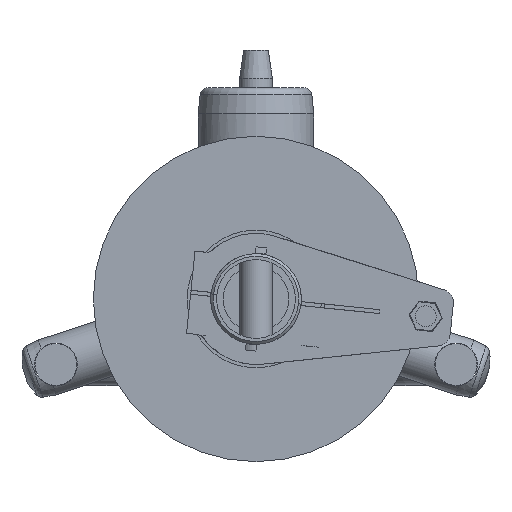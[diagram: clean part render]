
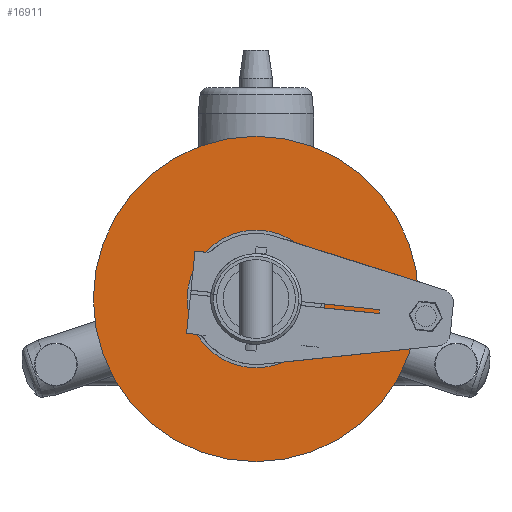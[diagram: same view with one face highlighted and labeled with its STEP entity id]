
A CAD part, front view. The second image highlights one B-rep face of the part: STEP entity #16911.
In plain terms, the highlighted planar face has unit normal (0, -1, 0).
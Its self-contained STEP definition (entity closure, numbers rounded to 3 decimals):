
#456 = DIRECTION ( 'NONE',  ( 0., -1., 0. ) ) ;
#630 = CARTESIAN_POINT ( 'NONE',  ( 0., 0., -52.5 ) ) ;
#1390 = EDGE_CURVE ( 'NONE', #16441, #19744, #5653, .T. ) ;
#1793 = ORIENTED_EDGE ( 'NONE', *, *, #1390, .T. ) ;
#2054 = CARTESIAN_POINT ( 'NONE',  ( 0., 0., 52.5 ) ) ;
#3431 = DIRECTION ( 'NONE',  ( 0., -1., 0. ) ) ;
#5345 = CARTESIAN_POINT ( 'NONE',  ( 0., 0., 0. ) ) ;
#5653 = CIRCLE ( 'NONE', #11081, 124. ) ;
#6054 = EDGE_LOOP ( 'NONE', ( #1793, #11224 ) ) ;
#6060 = CARTESIAN_POINT ( 'NONE',  ( 0., 0., 124. ) ) ;
#6659 = AXIS2_PLACEMENT_3D ( 'NONE', #5345, #17091, #7036 ) ;
#6713 = CARTESIAN_POINT ( 'NONE',  ( 0., 0., 0. ) ) ;
#7036 = DIRECTION ( 'NONE',  ( 0., 0., -1. ) ) ;
#7188 = FACE_BOUND ( 'NONE', #19404, .T. ) ;
#7352 = DIRECTION ( 'NONE',  ( 0., -1., 0. ) ) ;
#7837 = EDGE_CURVE ( 'NONE', #19515, #21374, #18924, .T. ) ;
#8399 = DIRECTION ( 'NONE',  ( 0., 0., -1. ) ) ;
#8841 = AXIS2_PLACEMENT_3D ( 'NONE', #6713, #18443, #8399 ) ;
#10481 = CARTESIAN_POINT ( 'NONE',  ( 0., 0., 0. ) ) ;
#11081 = AXIS2_PLACEMENT_3D ( 'NONE', #10481, #456, #12163 ) ;
#11137 = FACE_OUTER_BOUND ( 'NONE', #6054, .T. ) ;
#11224 = ORIENTED_EDGE ( 'NONE', *, *, #11884, .T. ) ;
#11884 = EDGE_CURVE ( 'NONE', #19744, #16441, #20219, .T. ) ;
#12163 = DIRECTION ( 'NONE',  ( 0., 0., -1. ) ) ;
#12256 = ORIENTED_EDGE ( 'NONE', *, *, #7837, .F. ) ;
#12425 = CARTESIAN_POINT ( 'NONE',  ( 0., 0., -124. ) ) ;
#13491 = CARTESIAN_POINT ( 'NONE',  ( 0., 0., 0. ) ) ;
#14523 = AXIS2_PLACEMENT_3D ( 'NONE', #630, #7352, #19070 ) ;
#15165 = DIRECTION ( 'NONE',  ( 0., 0., -1. ) ) ;
#16071 = CIRCLE ( 'NONE', #8841, 52.5 ) ;
#16441 = VERTEX_POINT ( 'NONE', #12425 ) ;
#16911 = ADVANCED_FACE ( 'NONE', ( #11137, #7188 ), #17402, .T. ) ;
#17091 = DIRECTION ( 'NONE',  ( 0., -1., 0. ) ) ;
#17402 = PLANE ( 'NONE',  #14523 ) ;
#18134 = CARTESIAN_POINT ( 'NONE',  ( 0., 0., -52.5 ) ) ;
#18443 = DIRECTION ( 'NONE',  ( 0., -1., 0. ) ) ;
#18924 = CIRCLE ( 'NONE', #20623, 52.5 ) ;
#19070 = DIRECTION ( 'NONE',  ( 0., 0., -1. ) ) ;
#19404 = EDGE_LOOP ( 'NONE', ( #20660, #12256 ) ) ;
#19515 = VERTEX_POINT ( 'NONE', #2054 ) ;
#19744 = VERTEX_POINT ( 'NONE', #6060 ) ;
#20219 = CIRCLE ( 'NONE', #6659, 124. ) ;
#20623 = AXIS2_PLACEMENT_3D ( 'NONE', #13491, #3431, #15165 ) ;
#20660 = ORIENTED_EDGE ( 'NONE', *, *, #20865, .F. ) ;
#20865 = EDGE_CURVE ( 'NONE', #21374, #19515, #16071, .T. ) ;
#21374 = VERTEX_POINT ( 'NONE', #18134 ) ;
